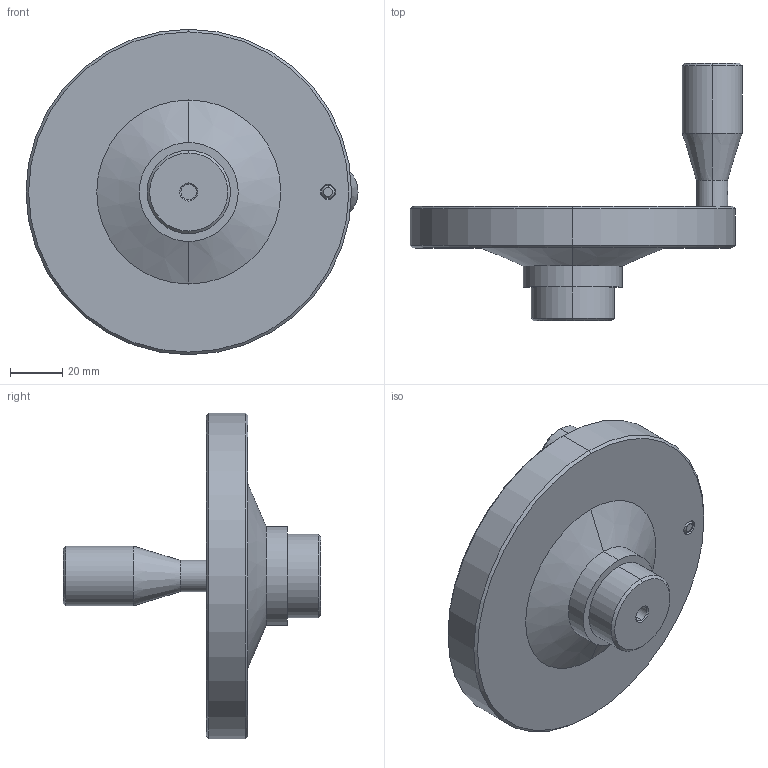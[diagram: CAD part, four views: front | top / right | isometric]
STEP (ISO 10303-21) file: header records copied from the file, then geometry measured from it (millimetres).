
FILE_DESCRIPTION (( 'STEP AP203' ), '1' );
FILE_NAME ('77640.W0125.step', '2019-08-13T15:13:21', ( '' ), ( '' ), 'SwSTEP 2.0', 'SolidWorks 2017', '' );
FILE_SCHEMA (( 'CONFIG_CONTROL_DESIGN' ));
Length unit declared in the file: millimetre
Products named in the file (3): Part2_77640.W0125; Part1_77640.W0125; 77640.W0125
Assembly tree (2 placements, depth 2):
  77640.W0125
    Part1_77640.W0125
    Part2_77640.W0125
Bounding box: 127.5 x 99 x 125 mm (x, y, z)
Volume: 204121.9 mm3; surface area: 39173.4 mm2
Topology: 2 solids, 2 shells, 59 faces, 116 edges, 68 vertices
Faces by surface type: cone 24, cylinder 24, plane 11
Entity records: 1845 total; most frequent: DIRECTION 308, CARTESIAN_POINT 276, ORIENTED_EDGE 232, AXIS2_PLACEMENT_3D 130, EDGE_CURVE 116, EDGE_LOOP 68, VERTEX_POINT 68, CIRCLE 66
